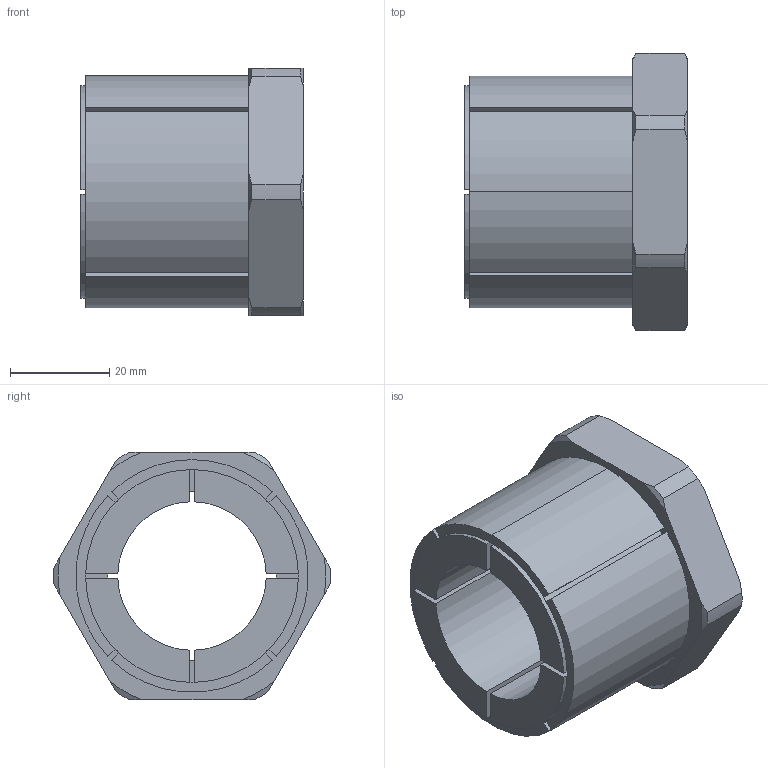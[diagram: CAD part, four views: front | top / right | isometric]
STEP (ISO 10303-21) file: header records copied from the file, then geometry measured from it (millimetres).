
FILE_DESCRIPTION (( 'STEP AP203' ), '1' );
FILE_NAME ('KBS 58 - 30 x 47.STEP', '2015-07-05T19:59:18', ( '' ), ( '' ), 'SwSTEP 2.0', 'SolidWorks 2010', '' );
FILE_SCHEMA (( 'CONFIG_CONTROL_DESIGN' ));
Length unit declared in the file: millimetre
Products named in the file (1): KBS 58 - 30 x 47
Bounding box: 45 x 55.99 x 50 mm (x, y, z)
Volume: 48995.6 mm3; surface area: 16805.3 mm2
Topology: 1 solids, 1 shells, 79 faces, 220 edges, 144 vertices
Faces by surface type: plane 37, cylinder 26, cone 16
Entity records: 2687 total; most frequent: CARTESIAN_POINT 564, ORIENTED_EDGE 440, DIRECTION 428, EDGE_CURVE 220, AXIS2_PLACEMENT_3D 160, VERTEX_POINT 144, LINE 108, VECTOR 108
